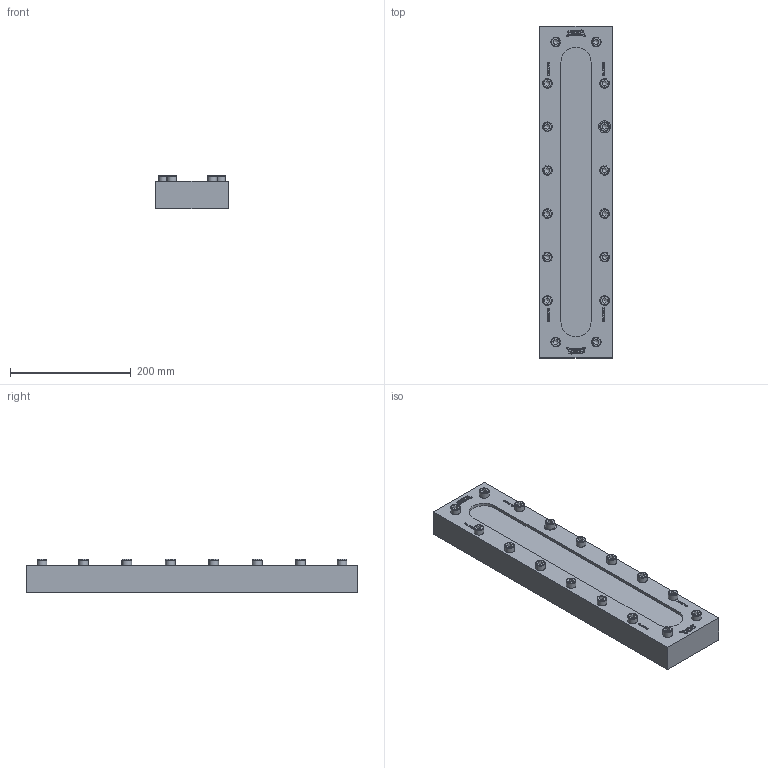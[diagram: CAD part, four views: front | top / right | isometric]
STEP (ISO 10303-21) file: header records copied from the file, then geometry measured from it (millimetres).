
FILE_DESCRIPTION(/* description */ (''),/* implementation_level */ '2;1');
FILE_NAME(/* name */ 'W:\Konstruktion_ACI\334\_Zeichnungen\STEP\ACI-334-550-3.stp',/* time_stamp */ '2022-03-02T16:51:17+01:00',/* author */ ('Travnicek'),/* organization */ ('ACI Industriearmaturen'),/* preprocessor_version */ 'ST-DEVELOPER v16.1',/* originating_system */ 'Autodesk Inventor 2016',/* authorisation */ '');
FILE_SCHEMA (('AUTOMOTIVE_DESIGN { 1 0 10303 214 3 1 1 }'));
Length unit declared in the file: centimetre
Products named in the file (1): 334
Bounding box: 120 x 550 x 54.96 mm (x, y, z)
Volume: 2435527 mm3; surface area: 228042.4 mm2
Topology: 1 solids, 1 shells, 1380 faces, 3778 edges, 2513 vertices
Faces by surface type: plane 955, bspline 372, cylinder 21, torus 16, cone 16
Full cylindrical faces by diameter (mm): 16 x16, 20 x1
Entity records: 45752 total; most frequent: CARTESIAN_POINT 12589, ORIENTED_EDGE 7396, DIRECTION 4934, EDGE_CURVE 3698, LINE 2800, VECTOR 2800, VERTEX_POINT 2482, EDGE_LOOP 1542
